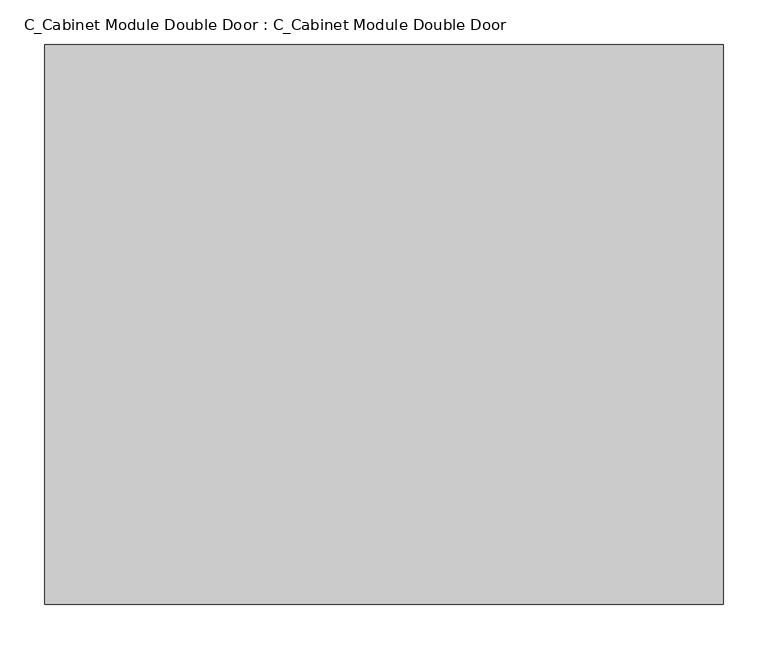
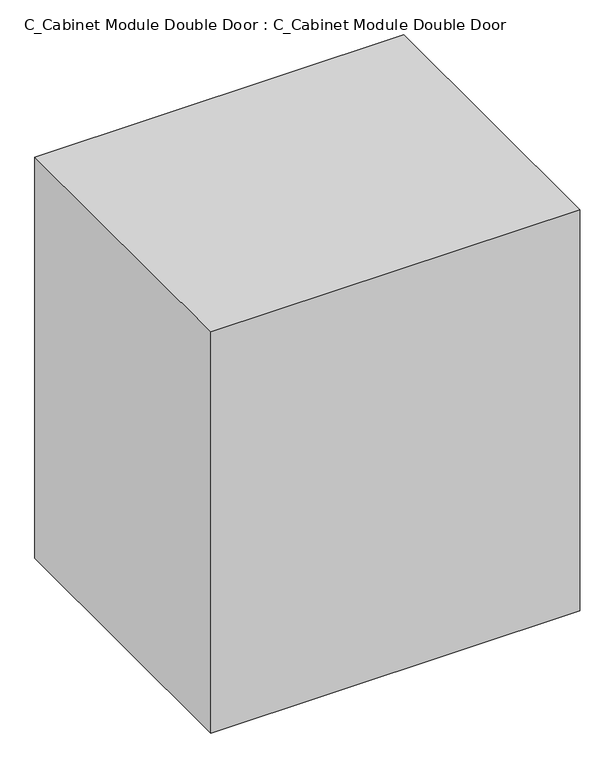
"""IFC4 building model written with IfcOpenShell, lengths in millimetres: furniture geometry, C_Cabinet Module Double Door : C_Cabinet Module Double Door."""

import ifcopenshell
import ifcopenshell.guid

model = None  # the IFC model being written
_history = None  # IfcOwnerHistory: only IFC2X3 demands one
_inside = {}  # id of a spatial element -> (the spatial element, [elements in it])
_under = {}  # id of a project, library or spatial element -> (it, [spatial elements below it])
_declared = {}  # id of a project -> (the project, [libraries it declares])
_typed = {}  # id of a type object -> (the type object, [elements of that type])
_made_of = {}  # id of a material, layer set ... -> (it, [elements and type objects made of it])


def new_model(schema):
    """Start an empty IFC model of exactly this schema.

    Asked for "IFC4X3", IfcOpenShell would pick the latest addendum, in which some entities
    have other attributes; the version numbers below select the first issue.
    IFC2X3 requires an IfcOwnerHistory on every rooted entity: one is made here for all.
    """
    global model, _history
    if schema == "IFC4X3":
        model = ifcopenshell.file(schema_version=(4, 3, 0, 0))
    else:
        model = ifcopenshell.file(schema=schema)
    _inside.clear()
    _under.clear()
    _declared.clear()
    _typed.clear()
    _made_of.clear()
    _history = None
    if model.schema == "IFC2X3":
        org = make("IfcOrganization", Name="unknown")
        user = make(
            "IfcPersonAndOrganization",
            ThePerson=make("IfcPerson", FamilyName="unknown"),
            TheOrganization=org,
        )
        app = make(
            "IfcApplication",
            ApplicationDeveloper=org,
            Version="unknown",
            ApplicationFullName="unknown",
            ApplicationIdentifier="unknown",
        )
        _history = make(
            "IfcOwnerHistory",
            OwningUser=user,
            OwningApplication=app,
            ChangeAction="ADDED",
            CreationDate=0,
        )
    return model


def make(cls, **values):
    """One entity of the class cls with the attributes given. An attribute that is None is left unset."""
    return model.create_entity(
        cls, **{name: value for name, value in values.items() if value is not None}
    )


def rooted(cls, **values):
    """An entity with a GlobalId (a new one), such as an element, a storey or a relation."""
    return make(cls, GlobalId=ifcopenshell.guid.new(), OwnerHistory=_history, **values)


def si_unit(unit_type, name, prefix=None):
    """IfcSIUnit, for example si_unit("LENGTHUNIT", "METRE", prefix="MILLI")."""
    return make("IfcSIUnit", UnitType=unit_type, Prefix=prefix, Name=name)


def assignment(units):
    """IfcUnitAssignment: the units of a project."""
    return None if units is None else make("IfcUnitAssignment", Units=units)


def point(xyz):
    """IfcCartesianPoint."""
    return None if xyz is None else make("IfcCartesianPoint", Coordinates=xyz)


def direction(xyz):
    """IfcDirection."""
    return None if xyz is None else make("IfcDirection", DirectionRatios=xyz)


def frame(location, z_axis=None, x_axis=None):
    """IfcAxis2Placement3D, a coordinate frame: its origin and axes. An axis left out is left unset."""
    return make(
        "IfcAxis2Placement3D",
        Location=point(location),
        Axis=direction(z_axis),
        RefDirection=direction(x_axis),
    )


def origin():
    """The frame at (0, 0, 0) with its axes left unset."""
    return frame((0.0, 0.0, 0.0))


def origin_with_axes():
    """The frame at (0, 0, 0) with the z axis (0, 0, 1) and the x axis (1, 0, 0) written out."""
    return frame((0.0, 0.0, 0.0), z_axis=(0.0, 0.0, 1.0), x_axis=(1.0, 0.0, 0.0))


def place(relative_to, where):
    """IfcLocalPlacement: puts the frame where relative to a parent placement (None: the world)."""
    return make(
        "IfcLocalPlacement", PlacementRelTo=relative_to, RelativePlacement=where
    )


def context(
    kind, dimensions, precision=None, world=None, true_north=None, identifier=None
):
    """IfcGeometricRepresentationContext, for example the 3D "Model" context."""
    return make(
        "IfcGeometricRepresentationContext",
        ContextIdentifier=identifier,
        ContextType=kind,
        CoordinateSpaceDimension=dimensions,
        Precision=precision,
        WorldCoordinateSystem=world,
        TrueNorth=true_north,
    )


def project(units=None, contexts=None):
    """IfcProject with its units and contexts."""
    return rooted(
        "IfcProject",
        Name="project",
        RepresentationContexts=contexts,
        UnitsInContext=assignment(units),
    )


def spatial(cls, under=None, at=None, **own):
    """A site, building, storey or space (cls), placed at a placement, below another one or the project."""
    s = rooted(cls, ObjectPlacement=at, **own)
    if under is not None:
        _under.setdefault(under.id(), (under, []))[1].append(s)
    return s


def polyline(points):
    """IfcPolyline through the points."""
    return make("IfcPolyline", Points=[point(p) for p in points])


def outline(outer, holes=None, kind="AREA"):
    """IfcArbitraryClosedProfileDef: a profile drawn as a closed curve; with holes, ...WithVoids."""
    if holes is None:
        return make("IfcArbitraryClosedProfileDef", ProfileType=kind, OuterCurve=outer)
    return make(
        "IfcArbitraryProfileDefWithVoids",
        ProfileType=kind,
        OuterCurve=outer,
        InnerCurves=holes,
    )


def extrude(swept, where, along, depth):
    """IfcExtrudedAreaSolid: the profile swept, set in the frame where, extruded along a direction by depth."""
    return make(
        "IfcExtrudedAreaSolid",
        SweptArea=swept,
        Position=where,
        ExtrudedDirection=direction(along),
        Depth=depth,
    )


def shape(context_of_items, identifier, shape_type, items):
    """IfcShapeRepresentation: the items that make up one representation, for example the "Body"."""
    return make(
        "IfcShapeRepresentation",
        ContextOfItems=context_of_items,
        RepresentationIdentifier=identifier,
        RepresentationType=shape_type,
        Items=items,
    )


def source(mapping_origin, context_of_items, identifier, shape_type, items):
    """IfcRepresentationMap: a shape defined once, which mapped items show again and again."""
    return make(
        "IfcRepresentationMap",
        MappingOrigin=mapping_origin,
        MappedRepresentation=shape(context_of_items, identifier, shape_type, items),
    )


def transform(
    local_origin,
    x_axis=None,
    y_axis=None,
    z_axis=None,
    scale=None,
    scale2=None,
    scale3=None,
    uniform=True,
):
    """IfcCartesianTransformationOperator3D, or its non-uniform kind. x_axis, y_axis, z_axis: its Axis1, 2, 3."""
    if uniform:
        return make(
            "IfcCartesianTransformationOperator3D",
            Axis1=direction(x_axis),
            Axis2=direction(y_axis),
            LocalOrigin=point(local_origin),
            Scale=scale,
            Axis3=direction(z_axis),
        )
    return make(
        "IfcCartesianTransformationOperator3DnonUniform",
        Axis1=direction(x_axis),
        Axis2=direction(y_axis),
        LocalOrigin=point(local_origin),
        Scale=scale,
        Axis3=direction(z_axis),
        Scale2=scale2,
        Scale3=scale3,
    )


def mapped(mapping_source, mapping_target):
    """IfcMappedItem: shows the shape of a source again, moved by a transform."""
    return make(
        "IfcMappedItem", MappingSource=mapping_source, MappingTarget=mapping_target
    )


def made_of(thing, what):
    """Note that an element or type object is made of a material, layer set ...; save() writes the relation."""
    if what is not None:
        _made_of.setdefault(what.id(), (what, []))[1].append(thing)
    return thing


def element(
    cls,
    number,
    at=None,
    inside=None,
    cuts=None,
    type_object=None,
    material=None,
    context=None,
    identifier="Body",
    shape_type=None,
    held_by="IfcProductDefinitionShape",
    body=None,
    shapes=None,
    **own,
):
    """One element of the class cls, such as IfcWall. Its Tag is "e" and its number.

    at: its placement. inside: the storey or other place that contains it. cuts: it is an
    opening in that element (IfcRelVoidsElement). A single representation is given by context,
    identifier, shape_type and body (its items); several are given by shapes. held_by: the class
    of the entity that holds the representations. save() writes the other relations.
    """
    e = rooted(cls, Tag="e%d" % number, ObjectPlacement=at, **own)
    if body is not None:
        shapes = [shape(context, identifier, shape_type, body)]
    if shapes is not None:
        e.Representation = make(held_by, Representations=shapes)
    if inside is not None:
        _inside.setdefault(inside.id(), (inside, []))[1].append(e)
    if cuts is not None:
        rooted(
            "IfcRelVoidsElement", RelatingBuildingElement=cuts, RelatedOpeningElement=e
        )
    if type_object is not None:
        _typed.setdefault(type_object.id(), (type_object, []))[1].append(e)
    return made_of(e, material)


def aggregate(whole, parts):
    """IfcRelAggregates: a whole, such as a stair, and the parts it consists of."""
    return rooted("IfcRelAggregates", RelatingObject=whole, RelatedObjects=parts)


def save(model, path):
    """Write the relations noted so far, then the file.

    IfcRelAggregates (storeys below a building ...), IfcRelContainedInSpatialStructure (elements
    in a storey), IfcRelDefinesByType, IfcRelAssociatesMaterial and IfcRelDeclares: one each for
    every whole, place, type object, material and project.
    """
    for whole, parts in _under.values():
        aggregate(whole, parts)
    for where, things in _inside.values():
        rooted(
            "IfcRelContainedInSpatialStructure",
            RelatedElements=things,
            RelatingStructure=where,
        )
    for kind, things in _typed.values():
        rooted("IfcRelDefinesByType", RelatedObjects=things, RelatingType=kind)
    for what, things in _made_of.values():
        rooted("IfcRelAssociatesMaterial", RelatedObjects=things, RelatingMaterial=what)
    for by, libraries in _declared.values():
        rooted("IfcRelDeclares", RelatingContext=by, RelatedDefinitions=libraries)
    model.write(path)


def c_cabinet_module_double_door_c_cabinet_module_double_door_7b111447(model_context):
    return source(origin(), model_context, "Body", "SweptSolid", [
        extrude(outline(polyline([(381.0, 0.0), (-381.0, 0.0), (-381.0, 628.65), (381.0, 628.65), (381.0, 0.0)])), origin_with_axes(), (0.0, 0.0, 1.0), 876.3),
    ])


if __name__ == "__main__":
    model = new_model("IFC4")
    model_context = context("Model", 3, world=origin())
    ifc_project = project(units=[si_unit("LENGTHUNIT", "METRE", prefix="MILLI")], contexts=[model_context])
    site = spatial("IfcSite", under=ifc_project)
    building = spatial("IfcBuilding", under=site)
    placement = place(None, origin())
    c_cabinet_module_double_door_c_cabinet_module_double_door_shape = c_cabinet_module_double_door_c_cabinet_module_double_door_7b111447(model_context)
    element("IfcFurniture", 1, ObjectType="C_Cabinet Module Double Door : C_Cabinet Module Double Door", at=placement, inside=building, context=model_context, shape_type="MappedRepresentation", body=[
        mapped(c_cabinet_module_double_door_c_cabinet_module_double_door_shape, transform((0.0, 0.0, 0.0), x_axis=(1.0, 0.0, 0.0), y_axis=(0.0, 1.0, 0.0), z_axis=(0.0, 0.0, 1.0))),
    ])
    save(model, "model.ifc")
